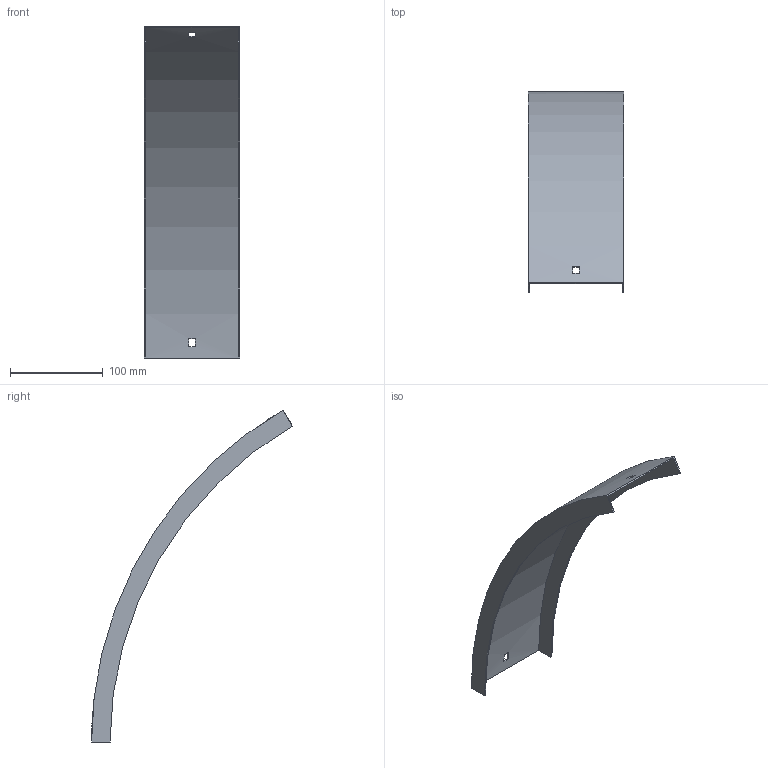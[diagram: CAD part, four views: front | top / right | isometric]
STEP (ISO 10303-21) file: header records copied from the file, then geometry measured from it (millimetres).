
FILE_DESCRIPTION (( 'STEP AP214' ), '1' );
FILE_NAME ('B2_41N3J100.step', '2025-02-21T10:42:04', ( '' ), ( '' ), 'SwSTEP 2.0', 'SolidWorks 2023', '' );
FILE_SCHEMA (( 'AUTOMOTIVE_DESIGN' ));
Length unit declared in the file: millimetre
Products named in the file (1): B2_41N3J100
Bounding box: 103 x 217 x 358.53 mm (x, y, z)
Volume: 90121.6 mm3; surface area: 121915.3 mm2
Topology: 1 solids, 1 shells, 18 faces, 48 edges, 32 vertices
Faces by surface type: plane 14, cylinder 4
Entity records: 599 total; most frequent: DIRECTION 102, CARTESIAN_POINT 99, ORIENTED_EDGE 96, EDGE_CURVE 48, AXIS2_PLACEMENT_3D 35, VECTOR 32, VERTEX_POINT 32, LINE 32
